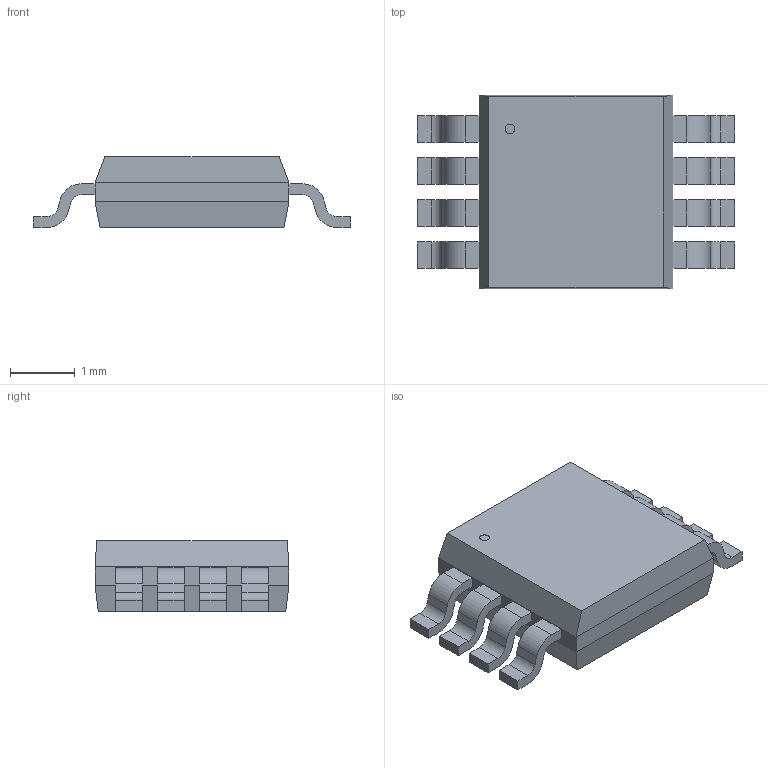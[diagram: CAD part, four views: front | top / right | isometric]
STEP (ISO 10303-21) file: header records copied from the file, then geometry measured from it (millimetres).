
FILE_DESCRIPTION(('STEP AP214'),'1');
FILE_NAME('MSOP8_MS_MCH','2022-05-28T15:37:34',(''),(''),'','','');
FILE_SCHEMA(('AUTOMOTIVE_DESIGN'));
Length unit declared in the file: millimetre
Products named in the file (1): product
Bounding box: 4.9 x 3 x 1.09 mm (x, y, z)
Volume: 10.1 mm3; surface area: 41.6 mm2
Topology: 10 solids, 10 shells, 129 faces, 319 edges, 210 vertices
Faces by surface type: plane 96, cylinder 33
Full cylindrical faces by diameter (mm): 0.15 x1
Entity records: 3672 total; most frequent: DIRECTION 646, ORIENTED_EDGE 636, CARTESIAN_POINT 375, EDGE_CURVE 318, LINE 252, VECTOR 252, VERTEX_POINT 210, AXIS2_PLACEMENT_3D 197
